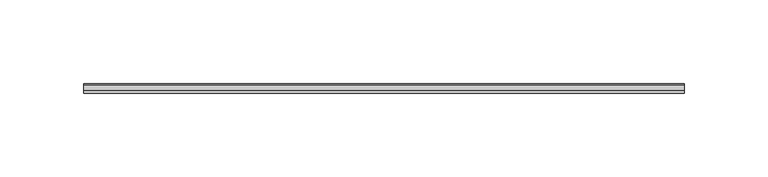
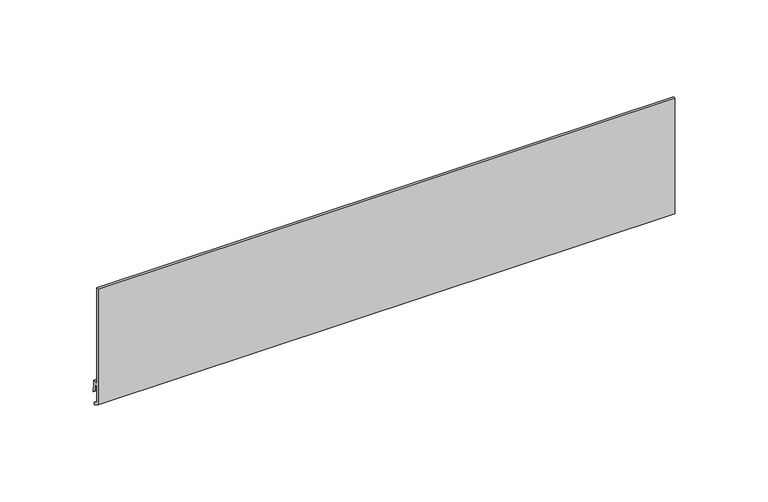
"""IFC4 building model written with IfcOpenShell, lengths in millimetres: plate geometry, FastPlank_P44V-V-Notch-4″-Plank-Horizontal : P44V-V-Notch-4″-Plank-Horizontal."""

from ifc_helpers import new_model, si_unit, frame, origin, place, context, project, spatial, polyline, outline, extrude, source, transform, mapped, element, save


def plate_67973d0f(model_context):
    return source(origin(), model_context, "Body", "SweptSolid", [
        extrude(outline(polyline([(-18.8745946, 2.3957023), (-18.8745946, 78.3636711), (-17.5745972, 78.3636711), (-17.5745972, 15.4863039), (-14.0246043, 15.4863039), (-14.0246043, 10.5877112), (-13.3162936, 9.8794005), (-13.3162936, 7.7608499), (-15.5246013, 9.9691576), (-15.5246013, 13.9827581), (-17.3745976, 13.9827581), (-17.3745976, 3.2617795), (-14.7246029, 1.7319938), (-14.7246029, 0.0), (-18.8745946, 2.3957023)])), frame((-179.0386195, 0.0, 0.0), z_axis=(1.0, 0.0, 0.0), x_axis=(0.0, 1.0, 0.0)), (0.0, 0.0, 1.0), 358.077239),
    ])


if __name__ == "__main__":
    model = new_model("IFC4")
    model_context = context("Model", 3, world=origin())
    ifc_project = project(units=[si_unit("LENGTHUNIT", "METRE", prefix="MILLI")], contexts=[model_context])
    site = spatial("IfcSite", under=ifc_project)
    building = spatial("IfcBuilding", under=site)
    placement = place(None, origin())
    plate_shape = plate_67973d0f(model_context)
    element("IfcPlate", 1, ObjectType="FastPlank_P44V-V-Notch-4″-Plank-Horizontal : P44V-V-Notch-4″-Plank-Horizontal", at=placement, inside=building, context=model_context, shape_type="MappedRepresentation", body=[
        mapped(plate_shape, transform((0.0, 0.0, 0.0), x_axis=(1.0, 0.0, 0.0), y_axis=(0.0, 1.0, 0.0), z_axis=(0.0, 0.0, 1.0))),
    ])
    save(model, "model.ifc")
